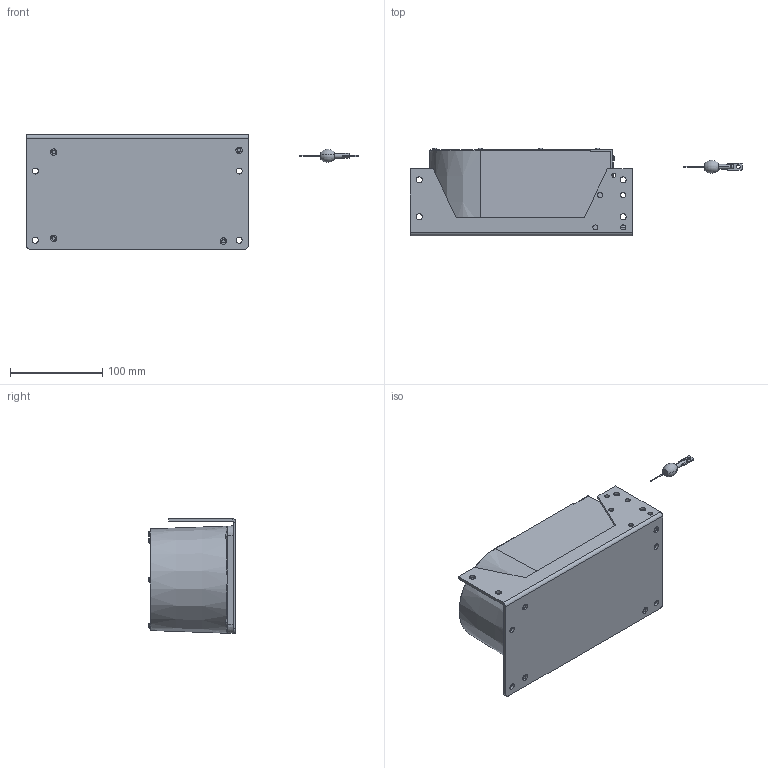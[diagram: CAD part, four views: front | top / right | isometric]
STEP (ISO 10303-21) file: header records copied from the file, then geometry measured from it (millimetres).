
FILE_DESCRIPTION (( 'STEP AP214' ), '1' );
FILE_NAME ('DL-07_Assem2.STEP', '2024-06-17T07:41:22', ( '' ), ( '' ), 'SwSTEP 2.0', 'SolidWorks 2023', '' );
FILE_SCHEMA (( 'AUTOMOTIVE_DESIGN' ));
Length unit declared in the file: millimetre
Products named in the file (8): DL-07_Part2; DL-07_Part1; DL-07_Part3; DL-07_Part4; DL07_固定パーツ; SCREW M4 X8 MM; DL-07_Assem2; SCREW M3 X6 MM
Assembly tree (18 placements, depth 2):
  DL-07_Assem2
    DL-07_Part1
    DL-07_Part2
    DL-07_Part3
    DL-07_Part4
    SCREW M3 X6 MM  x9
    DL07_固定パーツ
    SCREW M4 X8 MM  x4
Bounding box: 359.82 x 95 x 124.5 mm (x, y, z)
Volume: 1839667 mm3; surface area: 187622.8 mm2
Topology: 19 solids, 19 shells, 506 faces, 1432 edges, 983 vertices
Faces by surface type: plane 213, cylinder 134, bspline 62, cone 62, torus 35
Entity records: 11008 total; most frequent: CARTESIAN_POINT 4103, DIRECTION 1426, ORIENTED_EDGE 1358, EDGE_CURVE 679, AXIS2_PLACEMENT_3D 554, VERTEX_POINT 447, EDGE_LOOP 326, LINE 318
